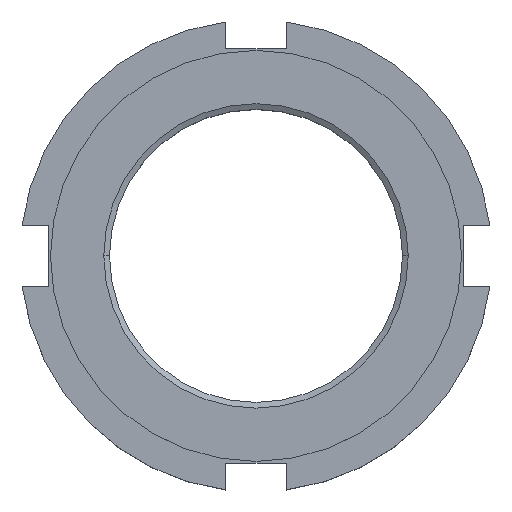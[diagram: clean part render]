
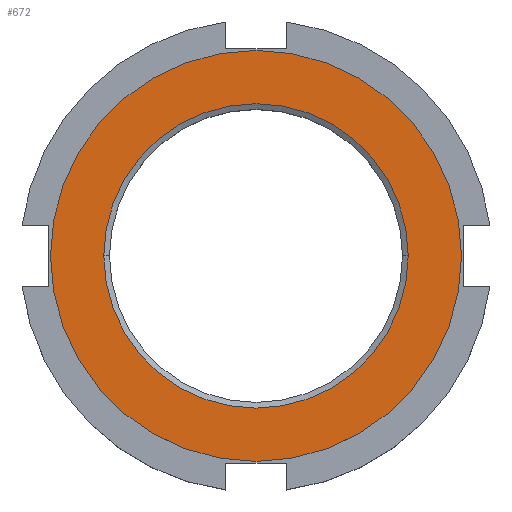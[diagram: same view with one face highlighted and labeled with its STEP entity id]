
A CAD part, top view. The second image highlights one B-rep face of the part: STEP entity #672.
In plain terms, the highlighted planar face has unit normal (0, 0, 1).
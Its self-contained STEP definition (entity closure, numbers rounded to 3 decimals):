
#18 = VERTEX_POINT ( 'NONE', #839 ) ;
#20 = AXIS2_PLACEMENT_3D ( 'NONE', #312, #118, #804 ) ;
#25 = CIRCLE ( 'NONE', #20, 27. ) ;
#51 = DIRECTION ( 'NONE',  ( 1., 0., 0. ) ) ;
#71 = AXIS2_PLACEMENT_3D ( 'NONE', #374, #874, #448 ) ;
#118 = DIRECTION ( 'NONE',  ( 0., 0., 1. ) ) ;
#137 = EDGE_CURVE ( 'NONE', #489, #18, #677, .T. ) ;
#153 = AXIS2_PLACEMENT_3D ( 'NONE', #210, #156, #837 ) ;
#156 = DIRECTION ( 'NONE',  ( 0., 0., 1. ) ) ;
#160 = CIRCLE ( 'NONE', #153, 20. ) ;
#210 = CARTESIAN_POINT ( 'NONE',  ( 0., 0., 0. ) ) ;
#249 = EDGE_LOOP ( 'NONE', ( #754, #675 ) ) ;
#259 = AXIS2_PLACEMENT_3D ( 'NONE', #636, #359, #495 ) ;
#312 = CARTESIAN_POINT ( 'NONE',  ( 0., 0., 0. ) ) ;
#359 = DIRECTION ( 'NONE',  ( 0., 0., 1. ) ) ;
#365 = FACE_BOUND ( 'NONE', #249, .T. ) ;
#374 = CARTESIAN_POINT ( 'NONE',  ( 27., 0., 0. ) ) ;
#431 = EDGE_CURVE ( 'NONE', #674, #483, #815, .T. ) ;
#438 = EDGE_CURVE ( 'NONE', #18, #489, #160, .T. ) ;
#448 = DIRECTION ( 'NONE',  ( 1., 0., 0. ) ) ;
#483 = VERTEX_POINT ( 'NONE', #512 ) ;
#489 = VERTEX_POINT ( 'NONE', #859 ) ;
#495 = DIRECTION ( 'NONE',  ( 1., 0., 0. ) ) ;
#509 = FACE_OUTER_BOUND ( 'NONE', #826, .T. ) ;
#512 = CARTESIAN_POINT ( 'NONE',  ( 27., 0., 0. ) ) ;
#636 = CARTESIAN_POINT ( 'NONE',  ( 0., 0., 0. ) ) ;
#637 = ORIENTED_EDGE ( 'NONE', *, *, #774, .T. ) ;
#662 = CARTESIAN_POINT ( 'NONE',  ( 0., 0., 0. ) ) ;
#671 = CARTESIAN_POINT ( 'NONE',  ( -27., 0., 0. ) ) ;
#672 = ADVANCED_FACE ( 'NONE', ( #509, #365 ), #734, .T. ) ;
#674 = VERTEX_POINT ( 'NONE', #671 ) ;
#675 = ORIENTED_EDGE ( 'NONE', *, *, #438, .F. ) ;
#677 = CIRCLE ( 'NONE', #805, 20. ) ;
#727 = ORIENTED_EDGE ( 'NONE', *, *, #431, .T. ) ;
#734 = PLANE ( 'NONE',  #71 ) ;
#754 = ORIENTED_EDGE ( 'NONE', *, *, #137, .F. ) ;
#774 = EDGE_CURVE ( 'NONE', #483, #674, #25, .T. ) ;
#804 = DIRECTION ( 'NONE',  ( 1., 0., 0. ) ) ;
#805 = AXIS2_PLACEMENT_3D ( 'NONE', #662, #806, #51 ) ;
#806 = DIRECTION ( 'NONE',  ( 0., 0., 1. ) ) ;
#815 = CIRCLE ( 'NONE', #259, 27. ) ;
#826 = EDGE_LOOP ( 'NONE', ( #637, #727 ) ) ;
#837 = DIRECTION ( 'NONE',  ( 1., 0., 0. ) ) ;
#839 = CARTESIAN_POINT ( 'NONE',  ( -20., 0., 0. ) ) ;
#859 = CARTESIAN_POINT ( 'NONE',  ( 20., 0., 0. ) ) ;
#874 = DIRECTION ( 'NONE',  ( 0., 0., 1. ) ) ;
